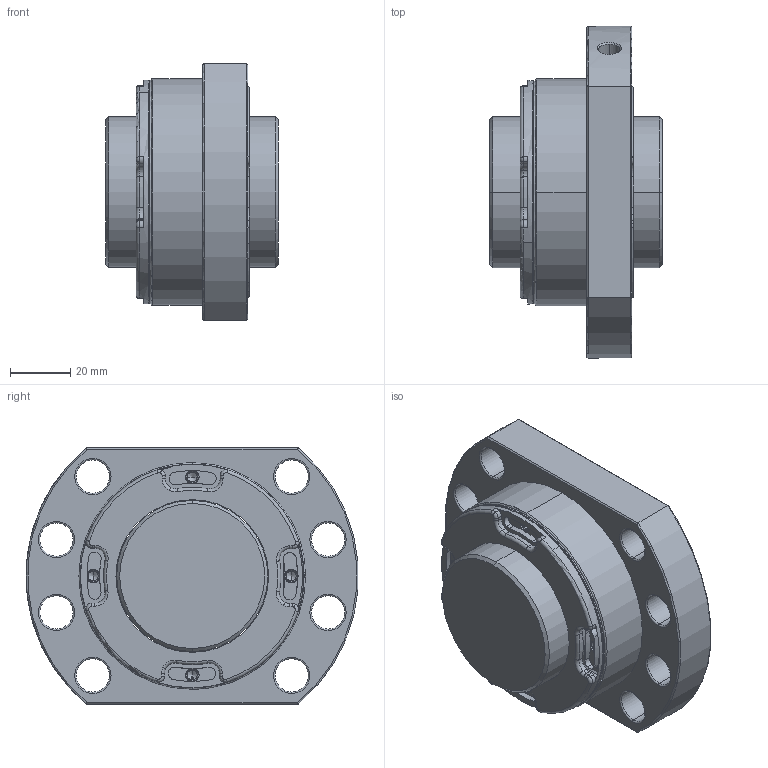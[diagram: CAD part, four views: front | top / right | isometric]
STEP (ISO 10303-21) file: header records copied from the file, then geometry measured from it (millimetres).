
FILE_DESCRIPTION (( 'STEP AP203' ), '1' );
FILE_NAME ('SFSR05005C1D-C.STEP', '2020-06-17T01:53:53', ( '' ), ( '' ), 'SwSTEP 2.0', 'SolidWorks 2013', '' );
FILE_SCHEMA (( 'CONFIG_CONTROL_DESIGN' ));
Length unit declared in the file: millimetre
Products named in the file (1): SFSR05005C1D-C
Bounding box: 57 x 109.82 x 85 mm (x, y, z)
Volume: 240135.8 mm3; surface area: 47112.6 mm2
Topology: 2 solids, 2 shells, 414 faces, 1044 edges, 638 vertices
Faces by surface type: cylinder 182, torus 111, plane 83, cone 36, bspline 2
Entity records: 16854 total; most frequent: CARTESIAN_POINT 6469, DIRECTION 2447, ORIENTED_EDGE 2056, AXIS2_PLACEMENT_3D 1082, EDGE_CURVE 1028, CIRCLE 669, VERTEX_POINT 638, EDGE_LOOP 456
